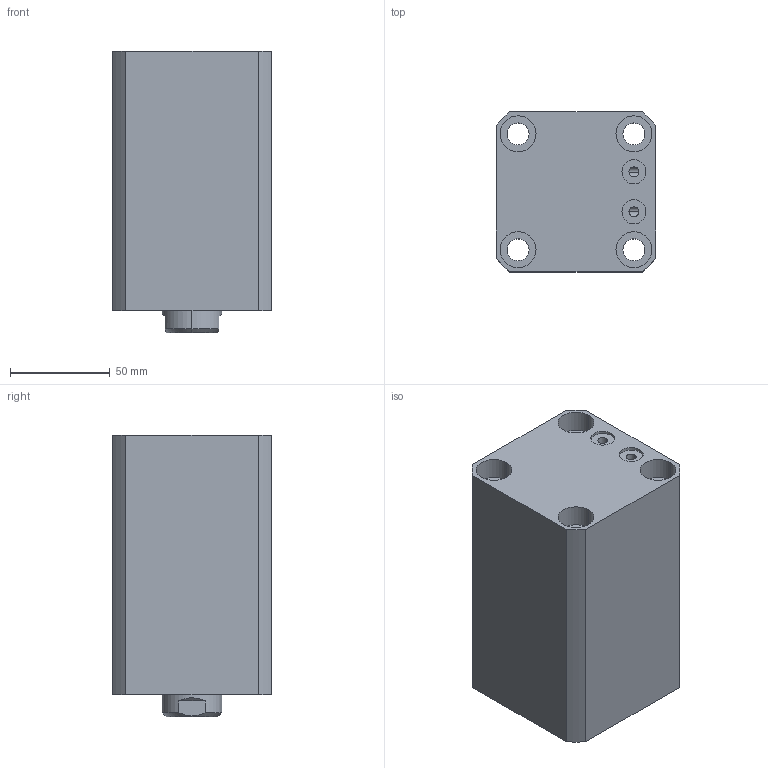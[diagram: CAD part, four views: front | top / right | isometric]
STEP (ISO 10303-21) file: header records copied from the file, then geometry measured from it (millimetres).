
FILE_DESCRIPTION (( 'STEP AP203' ), '1' );
FILE_NAME ('CHTB-SDMB50-70N.STEP', '2018-05-19T06:27:23', ( '' ), ( '' ), 'SwSTEP 2.0', 'SolidWorks 2015', '' );
FILE_SCHEMA (( 'CONFIG_CONTROL_DESIGN' ));
Length unit declared in the file: millimetre
Products named in the file (5): CHTM-SDMA50QG; 掛极SDMB50-70N; CHTB-SDMB50-70N; 活塞杆SDMB50-70N; M6
Assembly tree (5 placements, depth 2):
  CHTB-SDMB50-70N
    掛极SDMB50-70N
    活塞杆SDMB50-70N
    CHTM-SDMA50QG
    M6  x2
Bounding box: 80 x 80 x 141 mm (x, y, z)
Volume: 673390.7 mm3; surface area: 126630.6 mm2
Topology: 5 solids, 5 shells, 263 faces, 693 edges, 458 vertices
Faces by surface type: cylinder 135, plane 55, cone 31, bspline 26, torus 16
Entity records: 13963 total; most frequent: CARTESIAN_POINT 8102, ORIENTED_EDGE 1188, DIRECTION 1016, EDGE_CURVE 594, AXIS2_PLACEMENT_3D 416, VERTEX_POINT 397, EDGE_LOOP 269, ADVANCED_FACE 228
